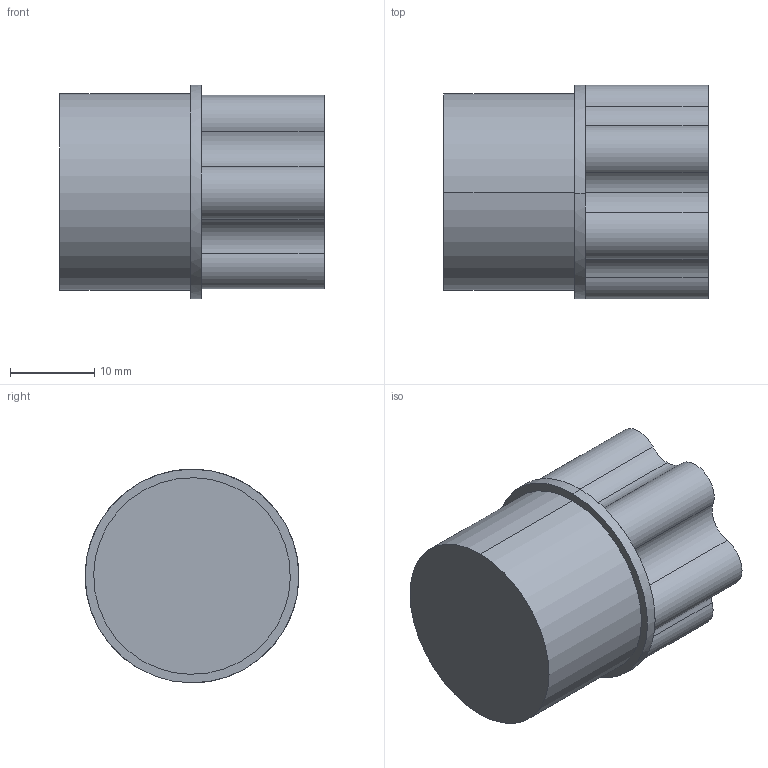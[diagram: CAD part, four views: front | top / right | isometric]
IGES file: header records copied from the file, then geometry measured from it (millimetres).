
Start section: SolidWorks IGES file using analytic representation for surfaces
Global section: file name: S:\Product Visuals\Defeatured Models and Parts Library\Parts Library IGES & STEP\Liquid Fittings\Front Mount liquid Fittings\Synchro Flare\30LPM\Fitting Synchro-Flare 06.IGS; native system: SolidWorks 2012; preprocessor: SolidWorks 2012; author: rachel.dressel; date: 120926.114833; units: inch
Bounding box: 31.42 x 25.4 x 25.4 mm (x, y, z)
Volume: 12606.3 mm3; surface area: 3643.1 mm2
Topology: 1 solids, 1 shells, 31 faces, 75 edges, 48 vertices
Faces by surface type: revolution 21, plane 10
